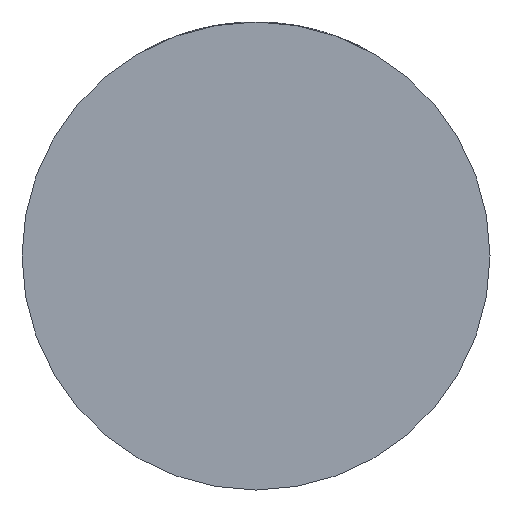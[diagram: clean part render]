
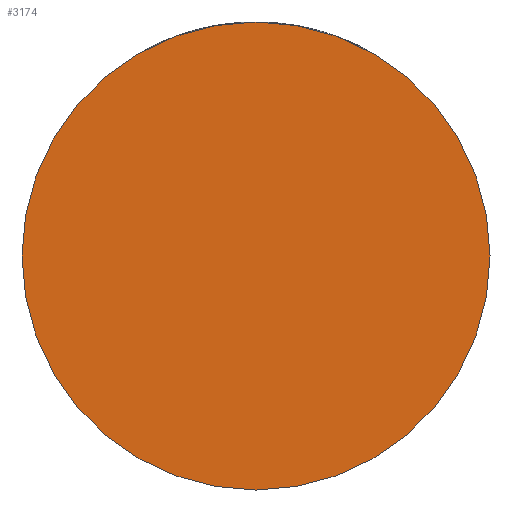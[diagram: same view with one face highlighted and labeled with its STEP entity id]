
A CAD part, front view. The second image highlights one B-rep face of the part: STEP entity #3174.
In plain terms, the highlighted planar face has unit normal (0, -1, 0).
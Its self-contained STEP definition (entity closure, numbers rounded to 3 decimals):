
#713 = ORIENTED_EDGE ( 'NONE', *, *, #1638, .T. ) ;
#1028 = CARTESIAN_POINT ( 'NONE',  ( 0., -36., 0. ) ) ;
#1133 = VERTEX_POINT ( 'NONE', #3348 ) ;
#1235 = ORIENTED_EDGE ( 'NONE', *, *, #2591, .T. ) ;
#1555 = AXIS2_PLACEMENT_3D ( 'NONE', #2081, #4435, #4179 ) ;
#1638 = EDGE_CURVE ( 'NONE', #2878, #1133, #2985, .T. ) ;
#1833 = DIRECTION ( 'NONE',  ( 0., -1., 0. ) ) ;
#2081 = CARTESIAN_POINT ( 'NONE',  ( 0., -36., 0. ) ) ;
#2244 = AXIS2_PLACEMENT_3D ( 'NONE', #1028, #2417, #3799 ) ;
#2417 = DIRECTION ( 'NONE',  ( 0., -1., 0. ) ) ;
#2591 = EDGE_CURVE ( 'NONE', #1133, #2878, #3149, .T. ) ;
#2755 = PLANE ( 'NONE',  #2244 ) ;
#2878 = VERTEX_POINT ( 'NONE', #4173 ) ;
#2922 = DIRECTION ( 'NONE',  ( 1., 0., 0. ) ) ;
#2985 = CIRCLE ( 'NONE', #3636, 39. ) ;
#3149 = CIRCLE ( 'NONE', #1555, 39. ) ;
#3174 = ADVANCED_FACE ( 'NONE', ( #3690 ), #2755, .T. ) ;
#3264 = EDGE_LOOP ( 'NONE', ( #1235, #713 ) ) ;
#3280 = CARTESIAN_POINT ( 'NONE',  ( 0., -36., 0. ) ) ;
#3348 = CARTESIAN_POINT ( 'NONE',  ( -39., -36., 0. ) ) ;
#3636 = AXIS2_PLACEMENT_3D ( 'NONE', #3280, #1833, #2922 ) ;
#3690 = FACE_OUTER_BOUND ( 'NONE', #3264, .T. ) ;
#3799 = DIRECTION ( 'NONE',  ( 1., 0., 0. ) ) ;
#4173 = CARTESIAN_POINT ( 'NONE',  ( 39., -36., 0. ) ) ;
#4179 = DIRECTION ( 'NONE',  ( 1., 0., 0. ) ) ;
#4435 = DIRECTION ( 'NONE',  ( 0., -1., 0. ) ) ;
